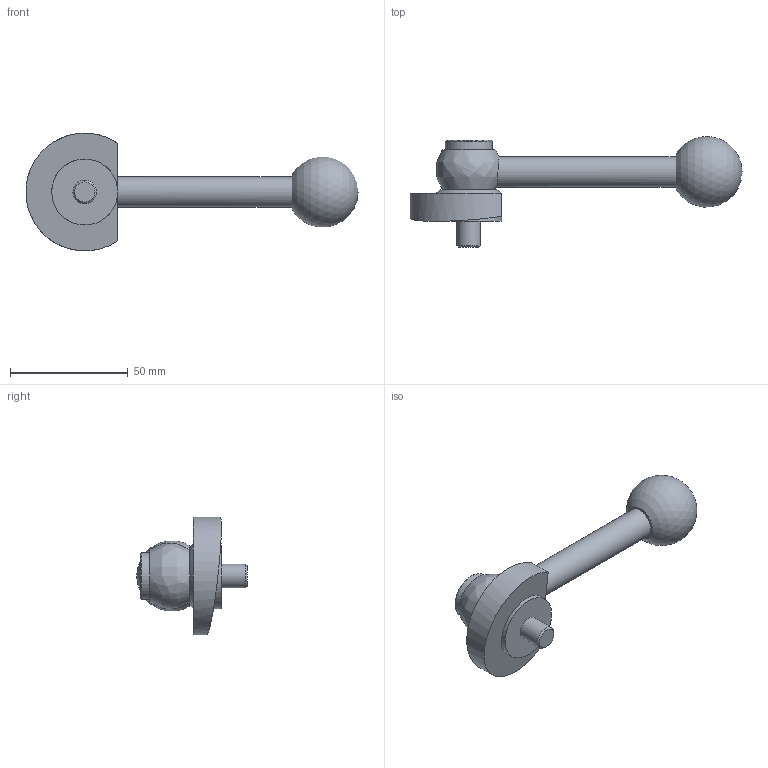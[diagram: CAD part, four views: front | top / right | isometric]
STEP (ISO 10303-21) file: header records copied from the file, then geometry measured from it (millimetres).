
FILE_DESCRIPTION( ( 'STEP AP203' ), '1' );
FILE_NAME( 'C:/Temp/Ganter_Step_05_03_2020/data/2_3/gn_918_2/Clamping bolt GN 918.2-50-GV-R.stp', '2020-03-05T13:12:07', ( 'License CC BY-ND 4.0' ), ( 'CADENAS' ), ' ', 'PARTsolutions', ' ' );
FILE_SCHEMA( ( 'CONFIG_CONTROL_DESIGN' ) );
Length unit declared in the file: millimetre
Products named in the file (1): _Clamping bolt GN 918.2-50-GV-R
Bounding box: 140.93 x 46.99 x 49.94 mm (x, y, z)
Volume: 52391.4 mm3; surface area: 12814.5 mm2
Topology: 1 solids, 1 shells, 33 faces, 73 edges, 45 vertices
Faces by surface type: plane 21, cylinder 6, cone 4, bspline 1, sphere 1
Full cylindrical faces by diameter (mm): 6 x1, 10 x1, 13 x1, 20 x1, 28 x1
Entity records: 934 total; most frequent: CARTESIAN_POINT 237, DIRECTION 142, ORIENTED_EDGE 108, AXIS2_PLACEMENT_3D 56, EDGE_CURVE 54, EDGE_LOOP 48, VERTEX_POINT 40, FACE_OUTER_BOUND 39
